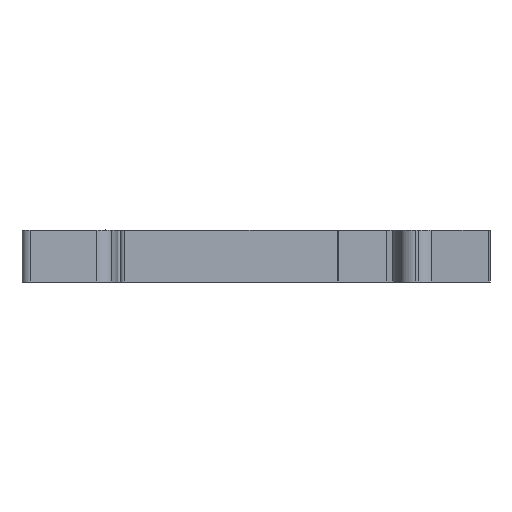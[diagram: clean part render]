
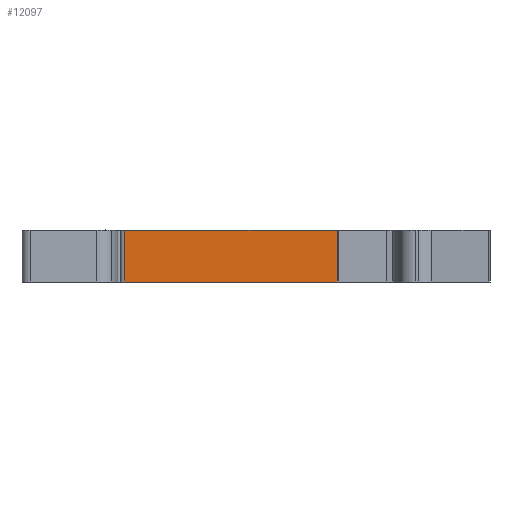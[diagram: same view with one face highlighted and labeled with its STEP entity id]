
A CAD part, front view. The second image highlights one B-rep face of the part: STEP entity #12097.
In plain terms, the highlighted planar face has unit normal (0, -1, 0).
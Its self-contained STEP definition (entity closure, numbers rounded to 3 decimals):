
#539=DIRECTION('',(1.,0.,0.));
#540=VECTOR('',#539,25.371);
#541=CARTESIAN_POINT('',(12.32,5.5,-6.2));
#542=LINE('',#541,#540);
#2114=DIRECTION('',(0.,0.,1.));
#2115=VECTOR('',#2114,6.2);
#2116=CARTESIAN_POINT('',(37.691,5.5,-6.2));
#2117=LINE('',#2116,#2115);
#2122=DIRECTION('',(1.,0.,0.));
#2123=VECTOR('',#2122,25.37);
#2124=CARTESIAN_POINT('',(12.32,5.5,0.));
#2125=LINE('',#2124,#2123);
#2130=DIRECTION('',(0.,0.,-1.));
#2131=VECTOR('',#2130,6.2);
#2132=CARTESIAN_POINT('',(12.32,5.5,0.));
#2133=LINE('',#2132,#2131);
#8799=CARTESIAN_POINT('',(12.32,5.5,-6.2));
#8801=VERTEX_POINT('',#8799);
#8802=CARTESIAN_POINT('',(37.691,5.5,-6.2));
#8803=VERTEX_POINT('',#8802);
#9782=CARTESIAN_POINT('',(37.69,5.5,0.));
#9783=VERTEX_POINT('',#9782);
#9784=CARTESIAN_POINT('',(12.32,5.5,0.));
#9785=VERTEX_POINT('',#9784);
#12085=CARTESIAN_POINT('',(12.32,5.5,0.));
#12086=DIRECTION('',(0.,-1.,0.));
#12087=DIRECTION('',(-1.,0.,0.));
#12088=AXIS2_PLACEMENT_3D('',#12085,#12086,#12087);
#12089=PLANE('',#12088);
#12090=ORIENTED_EDGE('',*,*,#10991,.F.);
#12092=ORIENTED_EDGE('',*,*,#12091,.F.);
#12093=ORIENTED_EDGE('',*,*,#11340,.T.);
#12094=ORIENTED_EDGE('',*,*,#12078,.F.);
#12095=EDGE_LOOP('',(#12090,#12092,#12093,#12094));
#12096=FACE_OUTER_BOUND('',#12095,.F.);
#12097=ADVANCED_FACE('',(#12096),#12089,.T.);
#10991=EDGE_CURVE('',#8801,#8803,#542,.T.);
#11340=EDGE_CURVE('',#9785,#9783,#2125,.T.);
#12078=EDGE_CURVE('',#8803,#9783,#2117,.T.);
#12091=EDGE_CURVE('',#9785,#8801,#2133,.T.);
